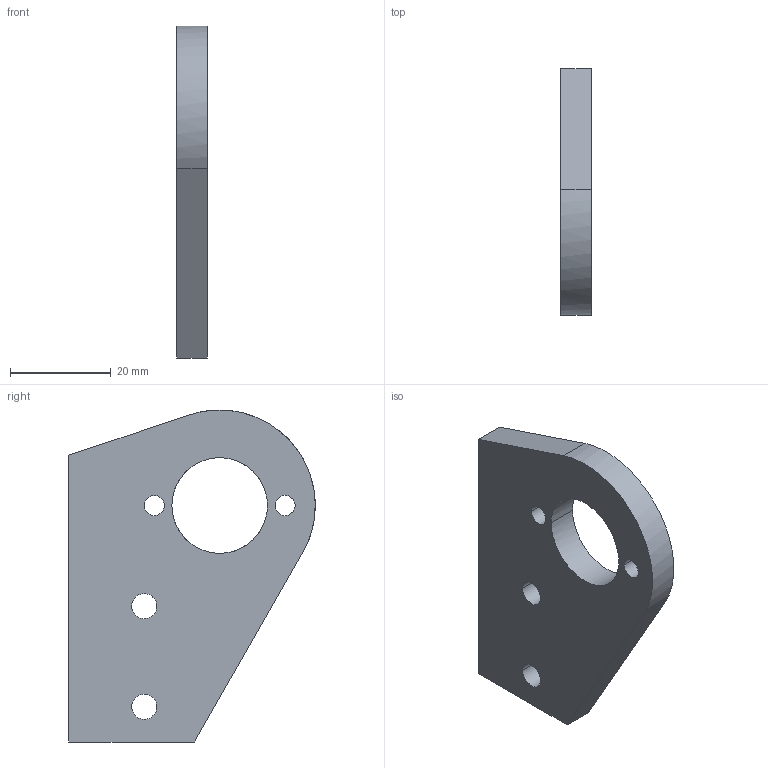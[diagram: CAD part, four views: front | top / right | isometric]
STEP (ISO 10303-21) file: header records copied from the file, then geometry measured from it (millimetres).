
FILE_DESCRIPTION(/* description */ (''),/* implementation_level */ '2;1');
FILE_NAME(/* name */ '6.y-drive#6.8#la-mpk-4',/* time_stamp */ '2014-12-01T20:16:03+01:00',/* author */ (''),/* organization */ (''),/* preprocessor_version */ 'ST-DEVELOPER v14',/* originating_system */ '',/* authorisation */ '');
FILE_SCHEMA (('AUTOMOTIVE_DESIGN'));
Length unit declared in the file: millimetre
Products named in the file (1): Document
Bounding box: 6 x 49 x 65.98 mm (x, y, z)
Volume: 13880.4 mm3; surface area: 6672 mm2
Topology: 1 solids, 1 shells, 17 faces, 45 edges, 30 vertices
Faces by surface type: bspline 11, plane 6
Entity records: 1228 total; most frequent: CARTESIAN_POINT 634, ORIENTED_EDGE 90, PCURVE 90, DEFINITIONAL_REPRESENTATION 90, B_SPLINE_CURVE_WITH_KNOTS 81, SURFACE_CURVE 45, EDGE_CURVE 45, VERTEX_POINT 30
